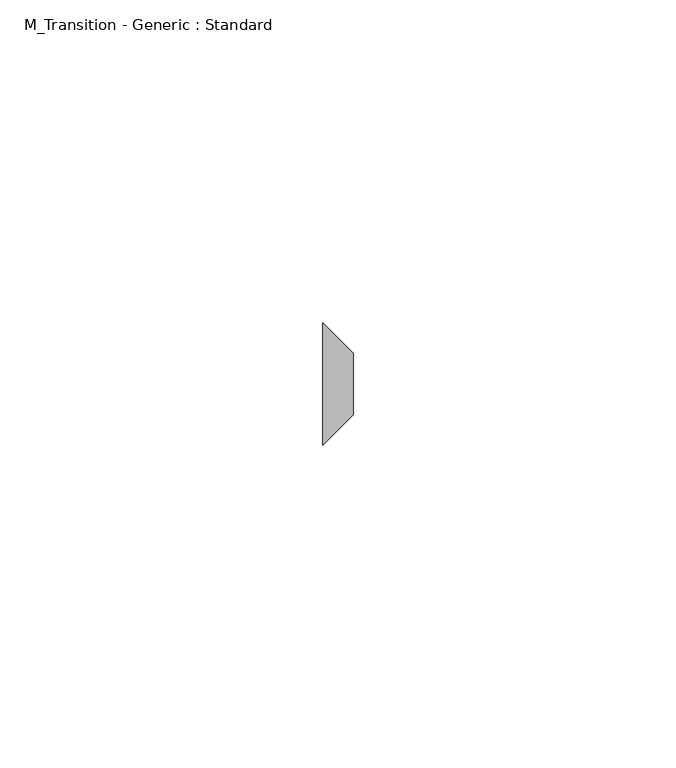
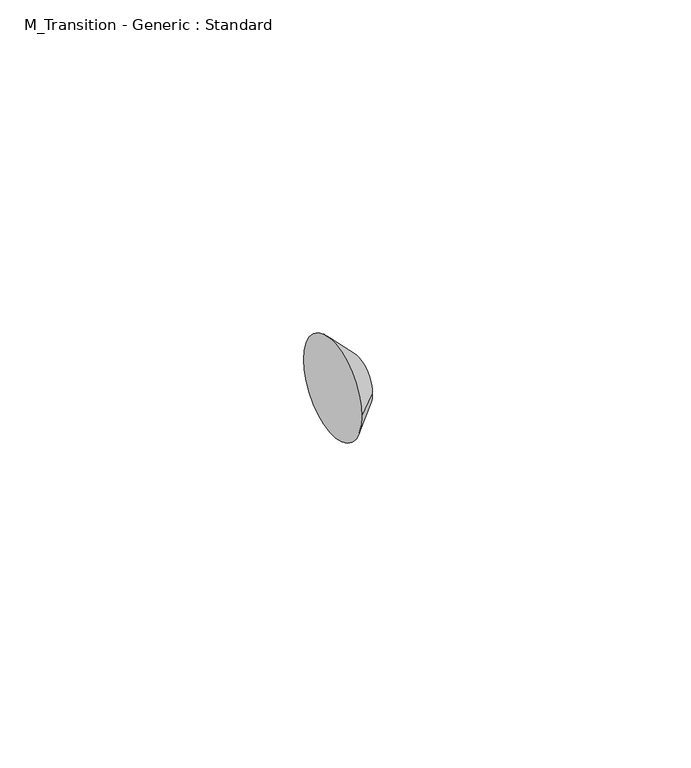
"""IFC4 building model written with IfcOpenShell, lengths in millimetres: pipe fitting geometry, M_Transition - Generic : Standard."""

from ifc_helpers import new_model, si_unit, frame, origin, place, context, project, spatial, polyline, circle_curve, source, transform, mapped, element, save
from ifc_brep_helpers import plane_surface, revolved_surface, advanced_brep


def m_transition_generic_standard_c2658a33(model_context):
    return source(origin(), model_context, "Body", "AdvancedBrep", [
        advanced_brep(
        [(4.7625, -4.7875, 0.0), (4.7625, 4.7875, 0.0), (0.0, -9.525, 0.0), (0.0, 9.525, 0.0)],
        [
            (0, 1, circle_curve(frame((4.7625, 0.0, 0.0), z_axis=(1.0, 0.0, 1.1674493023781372e-12), x_axis=(0.0, -1.0, 0.0)), 4.7875)),
            (1, 0, circle_curve(frame((4.7625, 0.0, 0.0), z_axis=(1.0, 0.0, 1.1674493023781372e-12), x_axis=(0.0, 1.0, 0.0)), 4.7875)),
            (2, 3, circle_curve(frame((0.0, 0.0, 0.0), z_axis=(-1.0, 0.0, -1.1674493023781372e-12), x_axis=(0.0, 1.0, 0.0)), 9.525)),
            (3, 2, circle_curve(frame((0.0, 0.0, 0.0), z_axis=(-1.0, 0.0, -1.1674493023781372e-12), x_axis=(0.0, -1.0, 0.0)), 9.525)),
            (3, 1),
            (0, 2),
        ],
        [
            plane_surface(frame((4.7625, 0.0, 0.0), z_axis=(1.0, 0.0, 0.0), x_axis=(0.0, 0.0, -1.0))),
            plane_surface(frame((0.0, 0.0, 0.0), z_axis=(-1.0, 0.0, 0.0), x_axis=(0.0, 0.0, -1.0))),
            revolved_surface(polyline([(4.7625, -4.787500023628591, 0.0), (0.0, -9.525, 0.0)]), (9.5752639, 0.0, 0.0), (-1.0, 0.0, -1.1674493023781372e-12)),
            revolved_surface(polyline([(4.7625, 4.787500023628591, 0.0), (0.0, 9.525, 0.0)]), (9.5752639, 0.0, 0.0), (-1.0, 0.0, -1.1674493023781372e-12)),
        ],
        [
            (0, [[1, 2]]),
            (1, [[3, 4]]),
            (2, [[-4, 5, -1, 6]]),
            (3, [[-3, -6, -2, -5]]),
        ],
    ),
    ])


if __name__ == "__main__":
    model = new_model("IFC4")
    model_context = context("Model", 3, world=origin())
    ifc_project = project(units=[si_unit("LENGTHUNIT", "METRE", prefix="MILLI")], contexts=[model_context])
    site = spatial("IfcSite", under=ifc_project)
    building = spatial("IfcBuilding", under=site)
    placement = place(None, origin())
    m_transition_generic_standard_shape = m_transition_generic_standard_c2658a33(model_context)
    element("IfcPipeFitting", 1, ObjectType="M_Transition - Generic : Standard", at=placement, inside=building, context=model_context, shape_type="MappedRepresentation", body=[
        mapped(m_transition_generic_standard_shape, transform((0.0, 0.0, 0.0), x_axis=(1.0, 0.0, 0.0), y_axis=(0.0, 1.0, 0.0), z_axis=(0.0, 0.0, 1.0))),
    ])
    save(model, "model.ifc")
